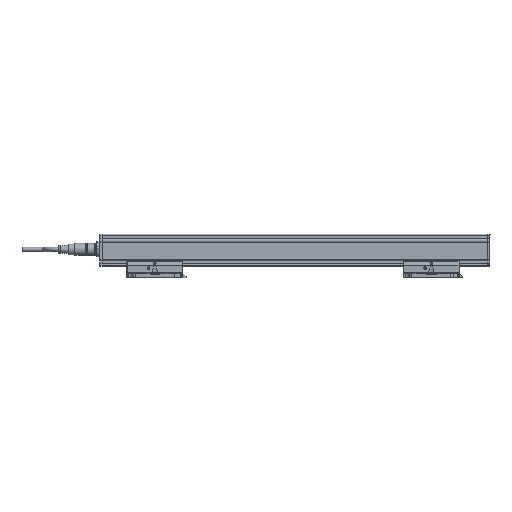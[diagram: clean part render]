
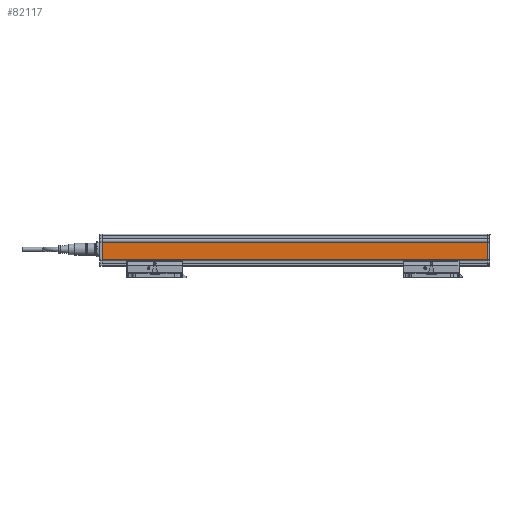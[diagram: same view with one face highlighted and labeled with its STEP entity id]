
A CAD part, front view. The second image highlights one B-rep face of the part: STEP entity #82117.
In plain terms, the highlighted planar face has unit normal (0, -1, 0).
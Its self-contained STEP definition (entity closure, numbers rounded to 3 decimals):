
#33863=ORIENTED_EDGE('',*,*,#47555,.F.);
#33864=ORIENTED_EDGE('',*,*,#47647,.F.);
#33865=ORIENTED_EDGE('',*,*,#47617,.F.);
#33866=ORIENTED_EDGE('',*,*,#47646,.T.);
#40920=VECTOR('',#55219,1.);
#40956=VECTOR('',#55319,1.);
#40983=VECTOR('',#55402,1.);
#40984=VECTOR('',#55405,1.);
#43026=LINE('',#63339,#40920);
#43062=LINE('',#63463,#40956);
#43089=LINE('',#63520,#40983);
#43090=LINE('',#63522,#40984);
#45135=VERTEX_POINT('',#63336);
#45136=VERTEX_POINT('',#63338);
#45191=VERTEX_POINT('',#63460);
#45192=VERTEX_POINT('',#63462);
#47555=EDGE_CURVE('',#45135,#45136,#43026,.T.);
#47617=EDGE_CURVE('',#45191,#45192,#43062,.T.);
#47646=EDGE_CURVE('',#45191,#45136,#43089,.T.);
#47647=EDGE_CURVE('',#45192,#45135,#43090,.T.);
#51209=EDGE_LOOP('',(#33863,#33864,#33865,#33866));
#53058=FACE_BOUND('',#51209,.T.);
#55219=DIRECTION('',(0.,0.,-20.835));
#55319=DIRECTION('',(0.,0.,20.835));
#55402=DIRECTION('',(460.002,0.,0.));
#55403=DIRECTION('',(0.,-1.,0.));
#55404=DIRECTION('',(-1.,0.,0.));
#55405=DIRECTION('',(460.002,0.,0.));
#63336=CARTESIAN_POINT('',(2515.179,19.186,104.61));
#63338=CARTESIAN_POINT('',(2515.179,19.186,83.775));
#63339=CARTESIAN_POINT('',(2515.179,19.186,104.61));
#63460=CARTESIAN_POINT('',(2055.177,19.186,83.775));
#63462=CARTESIAN_POINT('',(2055.177,19.186,104.61));
#63463=CARTESIAN_POINT('',(2055.177,19.186,83.775));
#63520=CARTESIAN_POINT('',(2055.177,19.186,83.775));
#63521=CARTESIAN_POINT('',(2515.179,19.186,104.61));
#63522=CARTESIAN_POINT('',(2055.177,19.186,104.61));
#78558=AXIS2_PLACEMENT_3D('',#63521,#55403,#55404);
#81423=PLANE('',#78558);
#82117=ADVANCED_FACE('',(#53058),#81423,.T.);
